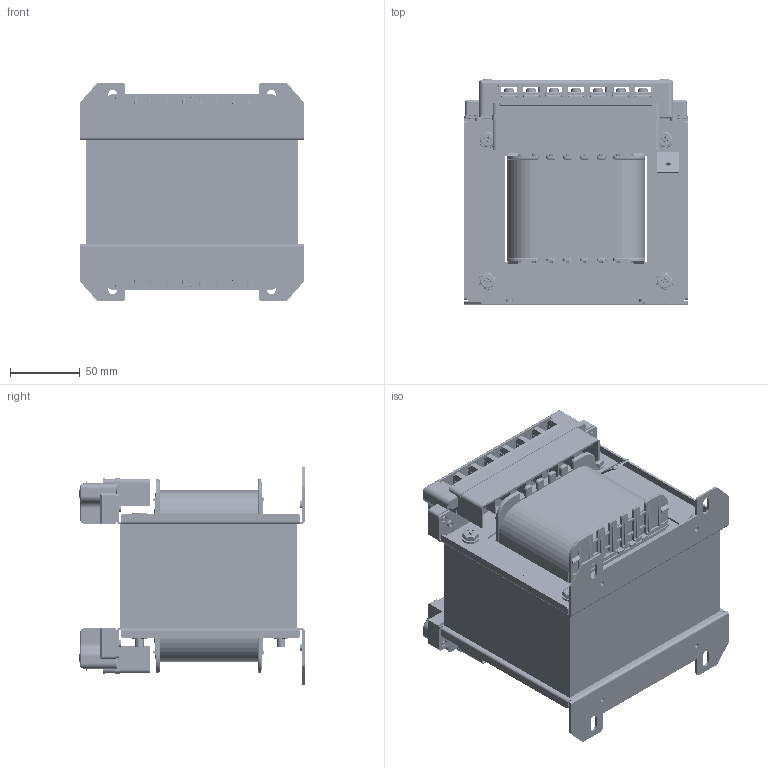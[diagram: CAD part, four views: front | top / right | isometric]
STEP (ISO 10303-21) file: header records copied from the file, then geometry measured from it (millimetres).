
FILE_DESCRIPTION (( 'STEP AP214' ), '1' );
FILE_NAME ('UL TRANS Ass''Y_1P-750VA_rev.0.STEP', '2018-10-17T00:37:13', ( 'Registered User' ), ( 'Microsoft Corporation' ), 'SwSTEP 2.0', 'SolidWorks 2018', '' );
FILE_SCHEMA (( 'AUTOMOTIVE_DESIGN' ));
Length unit declared in the file: millimetre
Products named in the file (17): M6-STS-FLANGE NUT_P00; WBS)6x90_P00; TGI-152CV_R01_遢醴幗 152; TRANS 1KVA COIL; TRANS 1KVA EI CORE_P00; TRANS BOBBIN(152.4-75)_P02_P00; UL TRANS Ass''Y_1P-750VA_rev.0; UL TRANS 1P 750VA BARRIER_P00; 152 窜磊措-巢东屈 ASS''Y_P01; M4x9(12x12); 餌陝WASHER(14x14); M4x10; 152 TERMINAL COVER; 152 欽濠渠 寰瞪 COVER; 152 窜磊措 TERMINAL(吵东屈)_P01; 152欽濠渠-BODY; 16mm 立瘤窜磊 陛屈 荐沥 八配 扒_170828
Assembly tree (39 placements, depth 4):
  UL TRANS Ass''Y_1P-750VA_rev.0
    TRANS BOBBIN(152.4-75)_P02_P00
    TRANS 1KVA EI CORE_P00
    TRANS 1KVA COIL
    TGI-152CV_R01_遢醴幗 152  x2
    WBS)6x90_P00  x4
    M6-STS-FLANGE NUT_P00  x4
    16mm 立瘤窜磊 陛屈 荐沥 八配 扒_170828
    152 窜磊措-巢东屈 ASS''Y_P01  x2
      152欽濠渠-BODY
      152 窜磊措 TERMINAL(吵东屈)_P01
      152 欽濠渠 寰瞪 COVER
      152 TERMINAL COVER
      M4x9(12x12)
        M4x10
        餌陝WASHER(14x14)
    UL TRANS 1P 750VA BARRIER_P00  x4
Bounding box: 160.2 x 161.6 x 156 mm (x, y, z)
Volume: 1949955.6 mm3; surface area: 509580.7 mm2
Topology: 66 solids, 66 shells, 11187 faces, 30286 edges, 19486 vertices
Faces by surface type: plane 6817, cylinder 3032, bspline 822, torus 266, cone 172, sphere 78
Entity records: 152549 total; most frequent: CARTESIAN_POINT 42576, ORIENTED_EDGE 23972, DIRECTION 20715, EDGE_CURVE 11986, VECTOR 9265, LINE 9265, VERTEX_POINT 7725, AXIS2_PLACEMENT_3D 5725
